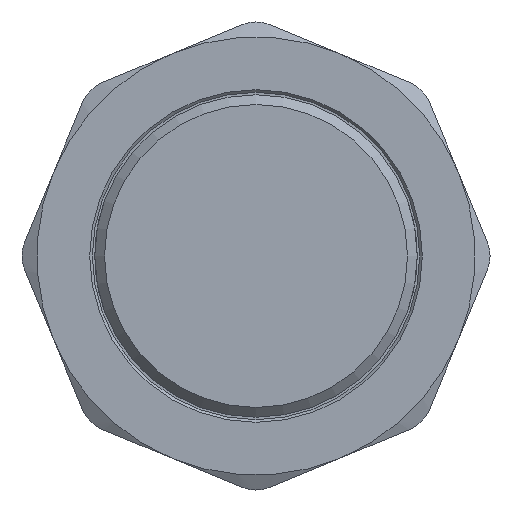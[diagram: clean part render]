
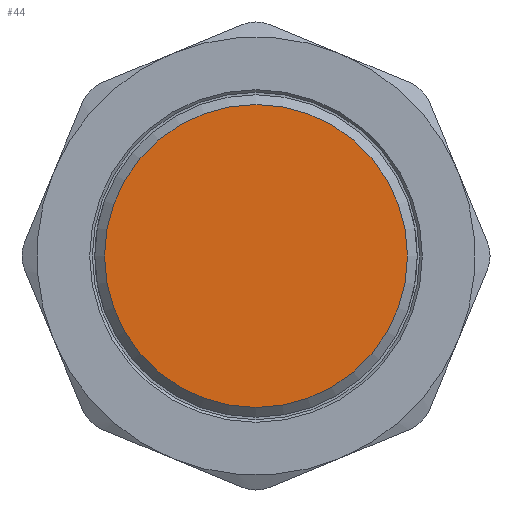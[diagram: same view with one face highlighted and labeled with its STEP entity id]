
A CAD part, front view. The second image highlights one B-rep face of the part: STEP entity #44.
In plain terms, the highlighted planar face has unit normal (0, -1, 0).
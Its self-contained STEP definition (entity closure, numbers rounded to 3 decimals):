
#44=ADVANCED_FACE('',(#111),#113,.F.);
#111=FACE_BOUND('',#112,.T.);
#112=EDGE_LOOP('',(#604));
#113=PLANE('',#114);
#114=AXIS2_PLACEMENT_3D('',#115,#116,#117);
#115=CARTESIAN_POINT('',(0.,0.,0.));
#116=DIRECTION('',(0.,1.,0.));
#117=DIRECTION('',(-1.,0.,0.));
#604=ORIENTED_EDGE('',*,*,#914,.T.);
#914=EDGE_CURVE('',#1069,#1069,#1070,.F.);
#1069=VERTEX_POINT('',#1327);
#1070=CIRCLE('',#1328,28.007);
#1327=CARTESIAN_POINT('',(0.,0.,28.007));
#1328=AXIS2_PLACEMENT_3D('',#1329,#1330,#1331);
#1329=CARTESIAN_POINT('',(0.,0.,0.));
#1330=DIRECTION('',(0.,1.,0.));
#1331=DIRECTION('',(0.,0.,1.));
